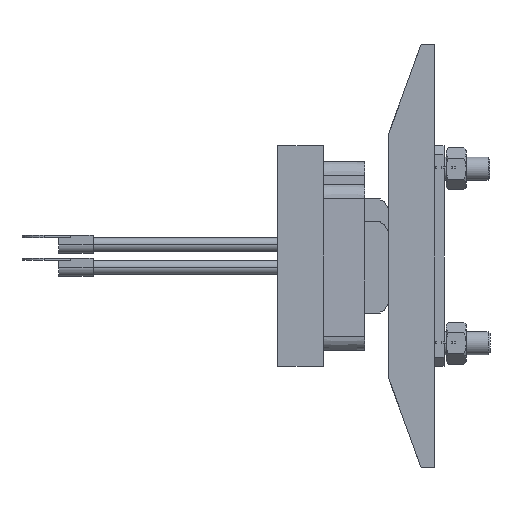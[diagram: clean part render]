
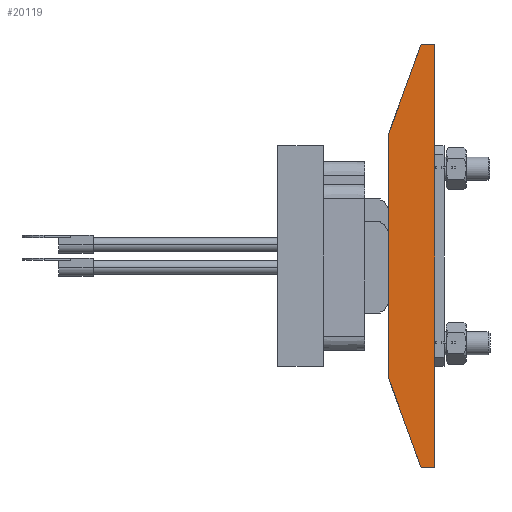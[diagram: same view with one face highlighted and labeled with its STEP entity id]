
A CAD part, left-side view. The second image highlights one B-rep face of the part: STEP entity #20119.
In plain terms, the highlighted planar face has unit normal (-1, 0, 0).
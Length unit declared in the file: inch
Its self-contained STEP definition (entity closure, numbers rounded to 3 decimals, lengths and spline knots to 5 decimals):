
#520 = CARTESIAN_POINT ( 'NONE',  ( 0., 0.625, 0. ) ) ;
#881 = EDGE_CURVE ( 'NONE', #4787, #21334, #11364, .T. ) ;
#1180 = CARTESIAN_POINT ( 'NONE',  ( 0., 0.625, -5.75 ) ) ;
#2150 = EDGE_CURVE ( 'NONE', #15435, #21334, #19109, .T. ) ;
#2178 = CARTESIAN_POINT ( 'NONE',  ( 0., 0.625, 0. ) ) ;
#2259 = DIRECTION ( 'NONE',  ( 0., 0., -1. ) ) ;
#2793 = CARTESIAN_POINT ( 'NONE',  ( 0., 0.187, 0. ) ) ;
#3147 = LINE ( 'NONE', #2178, #7665 ) ;
#4286 = AXIS2_PLACEMENT_3D ( 'NONE', #21019, #12505, #2259 ) ;
#4596 = VECTOR ( 'NONE', #6343, 39.37008 ) ;
#4787 = VERTEX_POINT ( 'NONE', #2793 ) ;
#5320 = VERTEX_POINT ( 'NONE', #9046 ) ;
#5612 = DIRECTION ( 'NONE',  ( 0., 0.342, -0.94 ) ) ;
#5627 = PLANE ( 'NONE',  #4286 ) ;
#5809 = ORIENTED_EDGE ( 'NONE', *, *, #11519, .T. ) ;
#6129 = ORIENTED_EDGE ( 'NONE', *, *, #21803, .F. ) ;
#6202 = CARTESIAN_POINT ( 'NONE',  ( 0., 0., 0. ) ) ;
#6262 = VECTOR ( 'NONE', #12314, 39.37008 ) ;
#6343 = DIRECTION ( 'NONE',  ( 0., -0.342, -0.94 ) ) ;
#7246 = DIRECTION ( 'NONE',  ( 0., 0., 1. ) ) ;
#7665 = VECTOR ( 'NONE', #7246, 39.37008 ) ;
#8350 = CARTESIAN_POINT ( 'NONE',  ( 0., 0., 0. ) ) ;
#9046 = CARTESIAN_POINT ( 'NONE',  ( 0., 0.187, -5.75 ) ) ;
#9874 = ORIENTED_EDGE ( 'NONE', *, *, #881, .F. ) ;
#11145 = CARTESIAN_POINT ( 'NONE',  ( 0., 0., -5.75 ) ) ;
#11364 = LINE ( 'NONE', #520, #6262 ) ;
#11438 = CARTESIAN_POINT ( 'NONE',  ( 0., 0.625, -4.5466 ) ) ;
#11519 = EDGE_CURVE ( 'NONE', #19867, #5320, #18234, .T. ) ;
#11710 = VECTOR ( 'NONE', #5612, 39.37008 ) ;
#12245 = LINE ( 'NONE', #14153, #11710 ) ;
#12314 = DIRECTION ( 'NONE',  ( 0., -1., 0. ) ) ;
#12505 = DIRECTION ( 'NONE',  ( 1., 0., 0. ) ) ;
#13127 = VECTOR ( 'NONE', #18261, 39.37008 ) ;
#13461 = EDGE_LOOP ( 'NONE', ( #6129, #5809, #18005, #15699, #9874, #18035 ) ) ;
#14153 = CARTESIAN_POINT ( 'NONE',  ( 0., 0.625, -1.2034 ) ) ;
#14445 = VERTEX_POINT ( 'NONE', #19755 ) ;
#15435 = VERTEX_POINT ( 'NONE', #11145 ) ;
#15440 = CARTESIAN_POINT ( 'NONE',  ( 0., 0.625, -4.5466 ) ) ;
#15699 = ORIENTED_EDGE ( 'NONE', *, *, #2150, .T. ) ;
#17617 = LINE ( 'NONE', #1180, #13127 ) ;
#18005 = ORIENTED_EDGE ( 'NONE', *, *, #19579, .T. ) ;
#18035 = ORIENTED_EDGE ( 'NONE', *, *, #21812, .T. ) ;
#18219 = DIRECTION ( 'NONE',  ( 0., 0., 1. ) ) ;
#18234 = LINE ( 'NONE', #11438, #4596 ) ;
#18261 = DIRECTION ( 'NONE',  ( 0., -1., 0. ) ) ;
#18575 = VECTOR ( 'NONE', #18219, 39.37008 ) ;
#19109 = LINE ( 'NONE', #6202, #18575 ) ;
#19579 = EDGE_CURVE ( 'NONE', #5320, #15435, #17617, .T. ) ;
#19755 = CARTESIAN_POINT ( 'NONE',  ( 0., 0.625, -1.2034 ) ) ;
#19867 = VERTEX_POINT ( 'NONE', #15440 ) ;
#20119 = ADVANCED_FACE ( 'NONE', ( #21112 ), #5627, .F. ) ;
#21019 = CARTESIAN_POINT ( 'NONE',  ( 0., 0.625, 0. ) ) ;
#21112 = FACE_OUTER_BOUND ( 'NONE', #13461, .T. ) ;
#21334 = VERTEX_POINT ( 'NONE', #8350 ) ;
#21803 = EDGE_CURVE ( 'NONE', #19867, #14445, #3147, .T. ) ;
#21812 = EDGE_CURVE ( 'NONE', #4787, #14445, #12245, .T. ) ;
